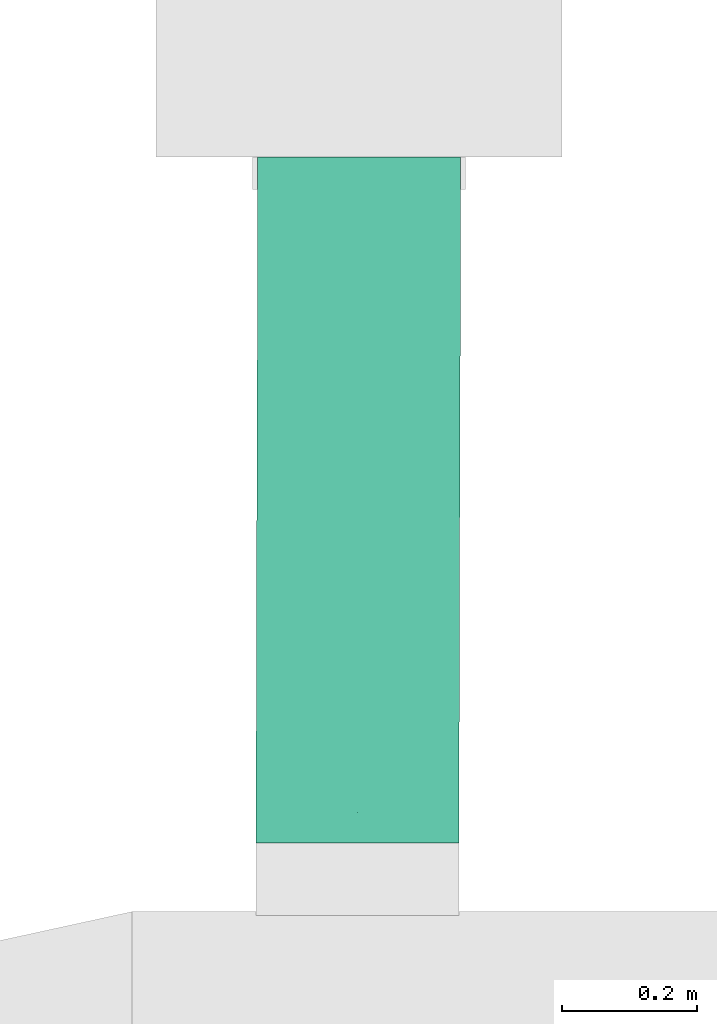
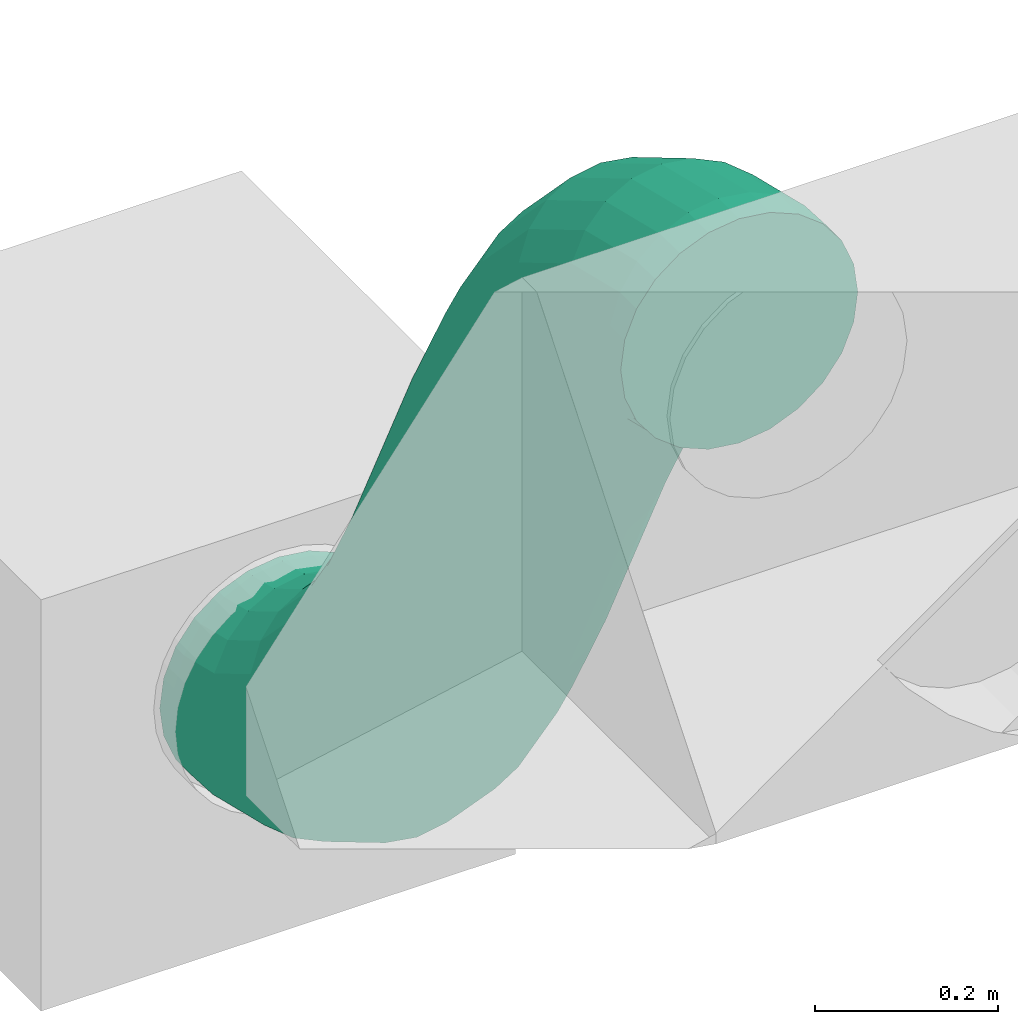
# One storey, part 43 of 60: 1 flow segment.
"""IFC2X3 building model written with IfcOpenShell, lengths in millimetres."""

from ifc_helpers import new_model, entity, si_unit, converted_unit, derived_unit, direction, frame, origin, place, context, subcontext, project, spatial, faceted_brep, type_object, element, save


model = new_model("IFC2X3")

# Units and contexts
model_context = context("Model", 3, precision=0.01, world=origin(), true_north=direction((6.123233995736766e-17, 1.0)))
body_context = subcontext(model_context, "Body", "Model", "MODEL_VIEW")
ifc_project = project(units=[si_unit("LENGTHUNIT", "METRE", prefix="MILLI"), converted_unit("PLANEANGLEUNIT", "DEGREE", entity("IfcPlaneAngleMeasure", 0.017453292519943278), si_unit("PLANEANGLEUNIT", "RADIAN"), dimensions=[0, 0, 0, 0, 0, 0, 0]), si_unit("AREAUNIT", "SQUARE_METRE"), derived_unit("THERMALTRANSMITTANCEUNIT", [(si_unit("MASSUNIT", "GRAM", prefix="KILO"), 1), (si_unit("THERMODYNAMICTEMPERATUREUNIT", "KELVIN"), -1), (si_unit("TIMEUNIT", "SECOND"), -3)])], contexts=[model_context])

# Site, building, storey
site_placement = place(None, origin())
site = spatial("IfcSite", under=ifc_project, at=site_placement, Name="Default", CompositionType="ELEMENT")
building_placement = place(site_placement, origin())
building = spatial("IfcBuilding", under=site, at=building_placement, Name="Praça Pedro II, 1301 - Centro (Sul), Teresina - PI, 64001-100", CompositionType="ELEMENT")
storey_placement = place(building_placement, frame((0.0, 0.0, 6040.0)))
storey = spatial("IfcBuildingStorey", under=building, at=storey_placement, Name="2PAV", CompositionType="ELEMENT", Elevation=6040.0)

# Flow segment
duct_segment_type = type_object("IfcDuctSegmentType", Name="Duto flexível redondo:Flexível - Redondo", PredefinedType="FLEXIBLESEGMENT")
flow_segment_placement = place(storey_placement, frame((18787.855338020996, -57934.32127782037, 2260.904727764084)))
element("IfcFlowSegment", 1, at=flow_segment_placement, inside=storey, type_object=duct_segment_type, Name="Duto flexível redondo:Flexível - Redondo", ObjectType="Duto flexível redondo:Flexível - Redondo", context=body_context, shape_type="Brep", body=[
    faceted_brep([(78.4657476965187, 1013.4202829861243, 281.49908280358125), (114.64289093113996, 1013.4202829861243, 296.48414617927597), (153.46574769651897, 1013.4202829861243, 301.5952722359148), (192.28860446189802, 1013.4202829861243, 296.48414617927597), (228.46574769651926, 1013.4202829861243, 281.49908280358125), (259.5317648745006, 1013.4202829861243, 257.66128941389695), (283.36955826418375, 1013.4202829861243, 226.59527223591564), (298.3546216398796, 1013.4202829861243, 190.41812900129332), (303.46574769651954, 1013.4202829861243, 151.59527223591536), (298.3546216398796, 1013.4202829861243, 112.77241547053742), (283.36955826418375, 1013.4202829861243, 76.59527223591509), (259.5317648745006, 1013.4202829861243, 45.529255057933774), (228.46574769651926, 1013.4202829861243, 21.691461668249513), (192.28860446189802, 1013.4202829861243, 6.706398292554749), (153.46574769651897, 1013.4202829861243, 1.5952722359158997), (114.64289093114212, 1013.4202829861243, 6.706398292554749), (78.4657476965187, 1013.4202829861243, 21.691461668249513), (47.39973051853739, 1013.4202829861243, 45.529255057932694), (23.561937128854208, 1013.4202829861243, 76.59527223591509), (8.576873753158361, 1013.4202829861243, 112.77241547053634), (3.4657476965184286, 1013.4202829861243, 151.59527223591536), (8.576873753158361, 1013.4202829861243, 190.41812900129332), (23.561937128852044, 1013.4202829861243, 226.59527223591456), (47.39973051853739, 1013.4202829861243, 257.66128941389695), (298.35462163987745, 981.4745333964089, 112.77241547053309), (283.3695582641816, 977.142272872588, 76.59527223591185), (259.5317648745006, 973.4243798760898, 45.529255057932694), (303.46574769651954, 986.1259250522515, 151.59527223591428), (228.46574769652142, 970.5742226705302, 21.691461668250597), (192.28860446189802, 968.7860347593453, 6.706398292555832), (153.46574769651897, 968.1816781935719, 1.5952722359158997), (114.64289093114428, 968.8023388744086, 6.706398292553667), (78.46574769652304, 970.6057198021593, 21.69146166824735), (47.39973051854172, 973.4689235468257, 45.52925505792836), (23.561937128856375, 977.1968275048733, 76.59527223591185), (8.576873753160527, 981.5353811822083, 112.77241547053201), (3.4657476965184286, 986.1889193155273, 151.59527223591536), (8.576873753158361, 990.8403109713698, 190.41812900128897), (23.561937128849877, 995.1725714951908, 226.59527223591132), (47.39973051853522, 998.890464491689, 257.6612894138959), (114.64289093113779, 1003.5288096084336, 296.4841461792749), (153.46574769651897, 1004.1331661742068, 301.5952722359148), (78.46574769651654, 1001.7406216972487, 281.49908280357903), (228.46574769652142, 1001.7091245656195, 281.49908280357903), (259.5317648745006, 998.8459208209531, 257.66128941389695), (192.28860446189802, 1003.5125054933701, 296.4841461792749), (298.3546216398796, 990.7794631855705, 190.41812900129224), (283.3695582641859, 995.1180168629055, 226.59527223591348), (151.59527223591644, 0.0, 1369.0952722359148), (112.77241547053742, 0.0, 1363.984146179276), (76.59527223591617, 0.0, 1348.9990828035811), (45.52925505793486, 0.0, 1325.1612894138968), (21.691461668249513, 0.0, 1294.0952722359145), (6.706398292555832, 0.0, 1257.9181290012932), (1.5952722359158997, 0.0, 1219.0952722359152), (6.706398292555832, 0.0, 1180.2724154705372), (21.69146166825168, 0.0, 1144.095272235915), (45.52925505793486, 0.0, 1113.0292550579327), (76.59527223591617, 0.0, 1089.1914616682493), (112.77241547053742, 0.0, 1074.2063982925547), (151.59527223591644, 0.0, 1069.0952722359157), (190.41812900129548, 0.0, 1074.2063982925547), (226.59527223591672, 0.0, 1089.1914616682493), (257.66128941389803, 0.0, 1113.0292550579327), (281.49908280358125, 0.0, 1144.095272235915), (296.48414617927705, 0.0, 1180.2724154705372), (301.595272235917, 0.0, 1219.0952722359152), (296.48414617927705, 0.0, 1257.9181290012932), (281.4990828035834, 0.0, 1294.0952722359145), (257.66128941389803, 0.0, 1325.1612894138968), (226.59527223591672, 0.0, 1348.9990828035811), (190.41812900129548, 0.0, 1363.984146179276), (303.42891500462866, 899.6806057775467, 172.61607653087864), (298.3134538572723, 884.8548749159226, 136.26730159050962), (283.32435282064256, 871.0463347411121, 102.39449387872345), (259.48309435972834, 859.1960144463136, 73.30602926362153), (228.41442083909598, 850.1114937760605, 50.984238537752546), (192.23561101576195, 844.4118678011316, 36.95031485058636), (153.41219099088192, 842.4855566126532, 32.16064690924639), (114.58991268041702, 844.4638351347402, 36.94164266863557), (78.41445019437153, 850.2118869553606, 50.96748516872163), (47.351101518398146, 859.337991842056, 73.28233642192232), (23.516782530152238, 871.2202208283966, 102.36547619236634), (8.535762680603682, 885.0488196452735, 136.23493656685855), (3.428973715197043, 899.8813921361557, 172.58256979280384), (8.544434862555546, 914.7071229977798, 208.93134473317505), (23.533535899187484, 928.5156631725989, 242.80415244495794), (47.374794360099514, 940.3659834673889, 271.89261706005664), (78.44346788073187, 949.4505041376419, 294.21440778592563), (114.62227770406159, 955.1501301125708, 308.24833147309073), (153.44569772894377, 957.0764413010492, 313.0379994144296), (192.26797603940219, 955.0981627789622, 308.2570036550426), (228.44343852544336, 949.3501109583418, 294.23116115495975), (259.5067872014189, 940.2240060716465, 271.9163099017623), (298.32212603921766, 914.5131782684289, 208.96370975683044), (283.34110618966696, 928.3417770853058, 242.83317013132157), (303.3270979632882, 801.8978277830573, 230.7241318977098), (298.20179562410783, 777.620839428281, 199.9918285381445), (283.2035285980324, 755.0094908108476, 171.35014731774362), (259.35440399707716, 735.6047079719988, 146.75097147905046), (228.2797002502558, 720.7288947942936, 127.87069420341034), (192.09710706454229, 711.395813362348, 115.99597518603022), (153.2724083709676, 708.2414977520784, 111.9360569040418), (114.45144322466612, 711.4809093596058, 115.96761607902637), (78.2797962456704, 720.8932876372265, 127.81590861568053), (47.2225053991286, 735.8371945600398, 146.67349295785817), (23.396073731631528, 755.2942275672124, 171.25525589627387), (8.424233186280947, 777.9384220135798, 199.88599090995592), (3.3272899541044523, 802.2266134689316, 230.61456072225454), (8.452592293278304, 826.5036018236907, 261.34686408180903), (23.450859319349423, 849.114950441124, 289.9885453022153), (47.29998392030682, 868.5197332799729, 314.58772114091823), (78.37468766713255, 883.3955464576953, 333.46799841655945), (114.55728085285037, 892.7286278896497, 345.3427174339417), (153.38197954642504, 895.8829434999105, 349.4026357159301), (192.20294469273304, 892.6435318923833, 345.37107654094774), (228.3745916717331, 883.2311536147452, 333.52278400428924), (259.43188251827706, 868.2872466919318, 314.6651996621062), (298.2301547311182, 826.1860192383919, 261.452701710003), (283.2583141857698, 848.8302136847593, 290.0834367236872), (303.17331791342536, 716.8756482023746, 318.4880222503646), (298.03738330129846, 686.7202704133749, 293.8236687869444), (283.02921348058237, 658.6338475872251, 270.833616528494), (259.1715904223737, 634.5304230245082, 251.08459954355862), (228.09037171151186, 616.0526052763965, 235.9224807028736), (191.90369103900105, 604.4596270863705, 226.38053334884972), (153.07761089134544, 600.5415307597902, 223.10902542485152), (114.25806446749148, 604.5653280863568, 226.3309047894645), (78.09053970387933, 616.2568039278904, 235.82660568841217), (47.039793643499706, 634.8192035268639, 250.94901179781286), (23.22188331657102, 658.9875300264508, 270.66755613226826), (8.259959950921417, 687.1147519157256, 293.63845248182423), (3.1736538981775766, 717.2840455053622, 318.2962722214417), (8.309588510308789, 747.4394232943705, 342.96062568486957), (23.317758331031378, 775.5258461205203, 365.95067794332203), (47.1753813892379, 799.6292706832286, 385.69969492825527), (78.2566001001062, 818.1070884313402, 400.8618137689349), (114.44328077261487, 829.7000666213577, 410.40376112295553), (153.2693609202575, 833.6181629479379, 413.67526904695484), (192.0889073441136, 829.5943656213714, 410.4533896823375), (228.25643210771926, 817.9028897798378, 400.95768878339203), (259.307178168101, 799.3404901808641, 385.83528267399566), (298.087011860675, 747.0449417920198, 343.14584198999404), (283.12508849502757, 775.172163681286, 366.11673833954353), (302.98059139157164, 641.4259134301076, 428.4790734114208), (297.8372389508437, 608.3665596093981, 408.04815267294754), (282.8221602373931, 577.5754020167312, 389.00107809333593), (258.9586080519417, 551.1508071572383, 372.6358763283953), (227.87284403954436, 530.8935675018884, 360.0678088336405), (191.68331164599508, 518.184180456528, 352.15336863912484), (152.85626769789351, 513.8887697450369, 349.4319117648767), (114.03771107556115, 518.3000605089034, 352.0889009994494), (77.87306226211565, 531.1174305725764, 359.9432669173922), (46.82688230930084, 551.4673973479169, 372.45974746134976), (23.01491707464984, 577.9631442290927, 388.7853651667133), (8.059912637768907, 608.799029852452, 407.8075561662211), (2.98102783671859, 641.8736395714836, 428.2299895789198), (8.124380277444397, 674.9329933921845, 448.6609103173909), (23.13945899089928, 705.72415098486, 467.70798489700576), (47.00301117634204, 732.1487458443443, 484.0731866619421), (78.08877518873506, 752.4059854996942, 496.6412541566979), (114.27830758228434, 765.1153725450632, 504.5556943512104), (153.10535153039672, 769.4107832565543, 507.27715122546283), (191.9239081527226, 764.9994924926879, 504.6201619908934), (228.08855696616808, 752.1821224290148, 496.7657960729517), (259.1347369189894, 731.8321556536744, 484.249315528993), (297.90170659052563, 674.5005231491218, 448.90150682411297), (282.94670215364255, 705.3364087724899, 467.9236978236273), (302.76190826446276, 572.3551985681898, 553.2838319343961), (297.6144194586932, 537.9893804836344, 535.2135781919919), (282.5954881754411, 505.98139490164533, 518.3652056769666), (258.7286297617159, 478.51253314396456, 503.886903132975), (227.6403311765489, 457.45475274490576, 492.7653429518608), (191.44920859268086, 444.24310663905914, 485.75844108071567), (152.6216272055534, 439.7779466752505, 483.3437063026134), (113.80362252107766, 444.3635661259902, 485.6856988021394), (77.64057740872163, 457.68746260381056, 492.6248156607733), (46.596943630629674, 478.84163458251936, 503.68816753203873), (22.788293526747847, 506.38446020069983, 518.1218052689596), (7.837147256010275, 538.4389414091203, 534.9421003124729), (2.7624007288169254, 572.8206182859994, 553.0027773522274), (7.909889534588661, 607.1864363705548, 571.0730310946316), (22.92882081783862, 639.1944219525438, 587.9214036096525), (46.79567923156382, 666.6632837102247, 602.3997061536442), (77.88397781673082, 687.7210641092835, 613.5212663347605), (114.07510040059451, 700.9327102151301, 620.5281682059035), (152.9026817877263, 705.3978701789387, 622.9429029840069), (191.7206864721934, 700.812250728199, 620.6009104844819), (227.88373158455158, 687.4883542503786, 613.6617936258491), (258.9273653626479, 666.3341822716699, 602.5984417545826), (297.6871617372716, 606.7368754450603, 571.3445089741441), (282.7360154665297, 638.7913566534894, 588.164804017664), (297.3814517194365, 471.73530402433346, 668.1707149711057), (297.15113039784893, 406.23384661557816, 799.6175133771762), (282.1321991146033, 374.22586103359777, 782.7691408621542), (282.36129630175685, 439.3791848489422, 652.0209688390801), (302.53025483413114, 506.47490057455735, 685.4908787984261), (302.29861920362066, 440.5996647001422, 817.6877671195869), (258.49338735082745, 411.6115590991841, 638.1422189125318), (258.2653407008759, 346.7569992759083, 768.2908383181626), (227.40428341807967, 390.3247445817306, 627.4802790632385), (227.17704211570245, 325.6992188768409, 757.1692781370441), (190.98591953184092, 312.4875727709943, 750.1623762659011), (191.21265555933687, 376.9694025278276, 620.7617428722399), (152.15833814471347, 308.0224128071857, 747.7476414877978), (152.38490340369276, 372.45567742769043, 618.4444674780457), (113.34033346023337, 312.608032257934, 750.0896339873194), (113.56707409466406, 377.09117218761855, 620.686371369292), (77.17728834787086, 325.93192873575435, 757.0287508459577), (77.4045385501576, 390.5599855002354, 627.3346725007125), (46.13365456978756, 347.08610071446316, 768.092102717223), (46.36171380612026, 411.9442399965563, 637.9363001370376), (22.554117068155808, 439.7866340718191, 651.768770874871), (22.325004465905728, 374.62892633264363, 782.5257404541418), (7.373858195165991, 406.6834075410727, 799.3460354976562), (7.60419671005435, 472.18975458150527, 667.8894246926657), (2.2991116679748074, 441.0650844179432, 817.4067125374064), (2.5307650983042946, 506.9453824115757, 685.1996656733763), (7.446600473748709, 475.4309025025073, 835.4769662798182), (7.679568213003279, 541.6849789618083, 702.5198295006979), (22.46553175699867, 507.4388880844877, 852.3253387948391), (22.699723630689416, 574.0410981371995, 718.6695756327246), (46.33239017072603, 534.9077498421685, 866.8036413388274), (46.5676325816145, 601.8087238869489, 732.5483255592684), (77.65673651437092, 623.0955384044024, 743.2102654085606), (77.42068875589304, 555.9655302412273, 877.9252015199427), (113.61181133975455, 569.1771763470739, 884.9321033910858), (113.84836437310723, 636.4508804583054, 749.9288015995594), (152.4393927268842, 573.6423363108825, 887.3468381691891), (152.6761165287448, 640.964605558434, 752.2460769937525), (191.2573974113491, 569.0567168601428, 885.0048456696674), (191.49394583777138, 636.3291107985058, 750.004173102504), (227.42044252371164, 555.7328203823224, 878.0657288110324), (227.65648138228, 622.8602974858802, 743.3558719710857), (258.6993061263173, 601.4760429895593, 732.7542443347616), (258.4640763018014, 534.5786484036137, 867.0023769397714), (282.50690286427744, 573.6336489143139, 718.9217735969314), (282.2727264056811, 507.03582278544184, 852.5687392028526), (297.22387267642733, 474.9813415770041, 835.748444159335), (297.4568232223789, 541.2305284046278, 702.801119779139), (296.93663965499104, 338.48728959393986, 922.0296341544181), (281.92156094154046, 307.69613200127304, 902.9825595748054), (302.0799920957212, 371.54664341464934, 942.4605548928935), (258.05800875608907, 281.2715371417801, 886.6173578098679), (226.97224474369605, 261.0142974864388, 874.0492903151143), (190.78271235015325, 248.3049104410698, 866.1348501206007), (151.9556684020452, 244.00949972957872, 863.4133932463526), (113.13711177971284, 248.42079049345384, 866.0703824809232), (76.97246296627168, 261.2381605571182, 873.9247483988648), (45.9262830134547, 281.58812733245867, 886.4412289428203), (7.159313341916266, 338.91975983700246, 921.789037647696), (2.0804285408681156, 371.99436955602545, 942.2114710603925), (22.114317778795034, 308.0838742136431, 902.7668466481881), (7.223780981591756, 405.0537233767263, 962.6423917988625), (22.238859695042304, 435.8448809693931, 981.6894663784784), (46.1024118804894, 462.2694758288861, 998.0546681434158), (77.18817589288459, 482.5267154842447, 1010.6227356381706), (113.37770828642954, 495.236102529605, 1018.5371758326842), (152.20475223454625, 499.5315132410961, 1021.2586327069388), (191.0233088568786, 495.1202224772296, 1018.601643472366), (227.18795767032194, 482.3028524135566, 1010.7472775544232), (258.2341376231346, 461.95288563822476, 998.2307970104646), (282.0461028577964, 435.4571387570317, 981.9051793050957), (297.00110729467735, 404.62125313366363, 962.8829883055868), (296.75143142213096, 265.9808596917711, 1027.729918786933), (281.74326160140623, 237.89443686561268, 1004.7398665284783), (301.88736603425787, 296.1362374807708, 1052.3942722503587), (257.8856385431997, 213.79101230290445, 984.9908495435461), (226.80441983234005, 195.31319455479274, 969.8287307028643), (190.61773915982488, 183.7202163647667, 960.2867833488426), (151.79165901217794, 179.8021200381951, 957.0152754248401), (112.97211258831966, 183.82591736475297, 960.2371547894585), (76.80458782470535, 195.51739320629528, 969.7328556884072), (45.75384176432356, 214.07979280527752, 984.85526179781), (6.974008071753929, 266.3753411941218, 1027.5447024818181), (1.8877020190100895, 296.54463478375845, 1052.2025222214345), (21.935931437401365, 238.24811930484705, 1004.5738061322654), (7.023636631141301, 326.70001257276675, 1076.8668756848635), (22.03180645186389, 354.7864353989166, 1099.856927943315), (45.889429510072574, 378.8898599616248, 1119.605944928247), (76.97064822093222, 397.3676777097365, 1134.7680637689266), (113.15732889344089, 408.9606558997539, 1144.3100111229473), (151.98340904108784, 412.87875222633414, 1147.5815190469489), (190.8029554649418, 408.85495489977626, 1144.3596396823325), (226.97048022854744, 397.1634790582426, 1134.863938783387), (258.0212262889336, 378.60107945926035, 1119.7415326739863), (281.83913661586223, 354.4327529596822, 1100.022988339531), (296.80105998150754, 326.30553107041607, 1077.0520919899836), (296.6084276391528, 186.91668116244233, 1109.3436803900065), (281.6101606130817, 164.3053325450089, 1080.7019991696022), (301.73372997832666, 211.19366951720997, 1140.0759837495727), (257.7610360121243, 144.90054970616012, 1056.1028233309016), (226.68633226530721, 130.02473652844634, 1037.2225460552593), (190.5037390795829, 120.691655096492, 1025.3478270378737), (151.6790403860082, 117.5373394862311, 1021.2879087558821), (112.85807523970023, 120.77675109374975, 1025.319467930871), (76.68642826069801, 130.18912937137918, 1037.1677604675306), (45.62913741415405, 145.1330362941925, 1056.0253448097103), (6.830865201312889, 187.23426374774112, 1109.2378427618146), (1.7339219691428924, 211.52245520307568, 1139.9664125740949), (21.80270574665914, 164.5900693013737, 1080.6071077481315), (6.859224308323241, 235.799443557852, 1170.6987159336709), (21.85749133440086, 258.4107921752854, 1199.340397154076), (45.70661593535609, 277.81557501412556, 1223.9395729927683), (76.78131968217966, 292.69138819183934, 1242.819850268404), (112.96391286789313, 302.02446962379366, 1254.6945692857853), (151.78861156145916, 305.17878523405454, 1258.7544875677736), (190.60957670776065, 301.9393736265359, 1254.722928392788), (226.78122368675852, 292.5269953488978, 1242.874635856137), (257.838514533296, 277.5830884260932, 1224.0170515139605), (281.6649462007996, 258.12605541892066, 1199.4352885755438), (296.63678674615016, 235.4818609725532, 1170.804553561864), (296.5165850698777, 98.71315998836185, 1161.7591997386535), (281.5274840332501, 84.90461981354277, 1127.8863920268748), (301.6320462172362, 113.53889084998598, 1198.1079746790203), (257.68622557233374, 73.05429951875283, 1098.7979274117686), (226.61755205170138, 63.969778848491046, 1076.476136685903), (190.43874222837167, 58.27015287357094, 1062.4422129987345), (151.6153222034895, 56.34384168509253, 1057.6525450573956), (112.79304389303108, 58.3221202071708, 1062.433540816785), (76.61758140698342, 64.07017202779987, 1076.4593833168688), (45.554232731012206, 73.19627691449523, 1098.7742345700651), (6.738893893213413, 98.90710471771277, 1161.7268347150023), (1.6321049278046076, 113.73967720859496, 1198.0744679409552), (21.71991374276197, 85.0785059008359, 1127.857374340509), (6.747566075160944, 128.5654080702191, 1234.42324288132), (21.73666711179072, 142.37394824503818, 1268.2960505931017), (45.57792557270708, 154.2242685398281, 1297.384515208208), (76.64659909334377, 163.30878921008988, 1319.7063059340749), (112.82540891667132, 169.00841518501, 1333.740229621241), (151.64882894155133, 170.93472637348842, 1338.529897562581), (190.4711072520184, 168.95644785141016, 1333.7489018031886), (226.6465697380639, 163.20839603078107, 1319.7230593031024), (257.7099184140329, 154.0822911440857, 1297.408208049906), (281.544237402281, 142.20006215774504, 1268.325068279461), (296.52525725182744, 128.3714633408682, 1234.455607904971), (296.48414617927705, 22.579972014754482, 1180.2724154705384), (281.4990828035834, 18.24771149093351, 1144.0952722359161), (301.595272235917, 27.2313636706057, 1219.0952722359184), (257.6612894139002, 14.529818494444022, 1113.0292550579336), (226.59527223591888, 11.67966128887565, 1089.1914616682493), (190.41812900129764, 9.891473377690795, 1074.2063982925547), (151.59527223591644, 9.287116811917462, 1069.0952722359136), (112.77241547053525, 9.907777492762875, 1074.2063982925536), (76.59527223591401, 11.711158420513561, 1089.1914616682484), (45.52925505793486, 14.57436216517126, 1113.0292550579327), (6.706398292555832, 22.6408198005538, 1180.2724154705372), (1.5952722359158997, 27.294357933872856, 1219.095272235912), (21.691461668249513, 18.302266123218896, 1144.0952722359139), (6.706398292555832, 31.945749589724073, 1257.918129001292), (21.691461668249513, 36.27801011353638, 1294.0952722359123), (45.52925505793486, 39.99590311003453, 1325.1612894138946), (76.59527223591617, 42.846060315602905, 1348.999082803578), (112.77241547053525, 44.6342482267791, 1363.9841461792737), (151.59527223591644, 45.23860479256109, 1369.0952722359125), (190.41812900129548, 44.61794411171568, 1363.9841461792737), (226.59527223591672, 42.81456318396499, 1348.9990828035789), (257.66128941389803, 39.951359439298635, 1325.1612894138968), (281.49908280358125, 36.223455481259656, 1294.0952722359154), (296.4841461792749, 31.884901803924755, 1257.9181290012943)], [[[0, 1, 2, 3, 4, 5, 6, 7, 8, 9, 10, 11, 12, 13, 14, 15, 16, 17, 18, 19, 20, 21, 22, 23]], [[10, 9, 24, 25]], [[11, 10, 25, 26]], [[8, 27, 24, 9]], [[13, 12, 28, 29]], [[14, 13, 29, 30]], [[11, 26, 28, 12]], [[14, 30, 31, 15]], [[15, 31, 32, 16]], [[16, 32, 33, 17]], [[18, 34, 35, 19]], [[19, 35, 36, 20]], [[17, 33, 34, 18]], [[37, 38, 22, 21]], [[36, 37, 21, 20]], [[22, 38, 39, 23]], [[40, 41, 2, 1]], [[42, 40, 1, 0]], [[23, 39, 42, 0]], [[4, 43, 44, 5]], [[45, 43, 4, 3]], [[2, 41, 45, 3]], [[46, 27, 8, 7]], [[47, 46, 7, 6]], [[44, 47, 6, 5]], [[48, 49, 50, 51, 52, 53, 54, 55, 56, 57, 58, 59, 60, 61, 62, 63, 64, 65, 66, 67, 68, 69, 70, 71]], [[24, 27, 72, 73]], [[25, 24, 73, 74]], [[26, 25, 74, 75]], [[29, 28, 76, 77]], [[30, 29, 77, 78]], [[75, 76, 28, 26]], [[30, 78, 79, 31]], [[31, 79, 80, 32]], [[32, 80, 81, 33]], [[33, 81, 82, 34]], [[34, 82, 83, 35]], [[84, 36, 35, 83]], [[85, 86, 38, 37]], [[84, 85, 37, 36]], [[87, 39, 38, 86]], [[88, 89, 40, 42]], [[88, 42, 39, 87]], [[90, 41, 40, 89]], [[91, 92, 43, 45]], [[90, 91, 45, 41]], [[44, 43, 92, 93]], [[94, 72, 27, 46]], [[95, 94, 46, 47]], [[93, 95, 47, 44]], [[72, 96, 97, 73]], [[73, 97, 98, 74]], [[99, 75, 74, 98]], [[76, 100, 101, 77]], [[77, 101, 102, 78]], [[100, 76, 75, 99]], [[79, 78, 102, 103]], [[80, 79, 103, 104]], [[104, 105, 81, 80]], [[82, 81, 105, 106]], [[83, 82, 106, 107]], [[84, 83, 107, 108]], [[109, 110, 86, 85]], [[108, 109, 85, 84]], [[87, 86, 110, 111]], [[112, 113, 89, 88]], [[111, 112, 88, 87]], [[90, 89, 113, 114]], [[115, 116, 92, 91]], [[114, 115, 91, 90]], [[117, 93, 92, 116]], [[118, 96, 72, 94]], [[119, 118, 94, 95]], [[119, 95, 93, 117]], [[96, 120, 121, 97]], [[97, 121, 122, 98]], [[123, 99, 98, 122]], [[100, 124, 125, 101]], [[101, 125, 126, 102]], [[124, 100, 99, 123]], [[103, 102, 126, 127]], [[104, 103, 127, 128]], [[128, 129, 105, 104]], [[106, 105, 129, 130]], [[107, 106, 130, 131]], [[108, 107, 131, 132]], [[133, 134, 110, 109]], [[132, 133, 109, 108]], [[111, 110, 134, 135]], [[136, 137, 113, 112]], [[135, 136, 112, 111]], [[114, 113, 137, 138]], [[139, 140, 116, 115]], [[138, 139, 115, 114]], [[141, 117, 116, 140]], [[142, 120, 96, 118]], [[143, 142, 118, 119]], [[143, 119, 117, 141]], [[120, 144, 145, 121]], [[121, 145, 146, 122]], [[147, 123, 122, 146]], [[124, 148, 149, 125]], [[125, 149, 150, 126]], [[148, 124, 123, 147]], [[127, 126, 150, 151]], [[128, 127, 151, 152]], [[152, 153, 129, 128]], [[130, 129, 153, 154]], [[131, 130, 154, 155]], [[132, 131, 155, 156]], [[157, 158, 134, 133]], [[156, 157, 133, 132]], [[135, 134, 158, 159]], [[160, 161, 137, 136]], [[159, 160, 136, 135]], [[138, 137, 161, 162]], [[163, 164, 140, 139]], [[162, 163, 139, 138]], [[165, 141, 140, 164]], [[166, 144, 120, 142]], [[167, 166, 142, 143]], [[167, 143, 141, 165]], [[144, 168, 169, 145]], [[145, 169, 170, 146]], [[171, 147, 146, 170]], [[148, 172, 173, 149]], [[149, 173, 174, 150]], [[172, 148, 147, 171]], [[151, 150, 174, 175]], [[152, 151, 175, 176]], [[176, 177, 153, 152]], [[154, 153, 177, 178]], [[155, 154, 178, 179]], [[156, 155, 179, 180]], [[181, 182, 158, 157]], [[180, 181, 157, 156]], [[159, 158, 182, 183]], [[184, 185, 161, 160]], [[183, 184, 160, 159]], [[162, 161, 185, 186]], [[187, 188, 164, 163]], [[186, 187, 163, 162]], [[189, 165, 164, 188]], [[190, 168, 144, 166]], [[191, 190, 166, 167]], [[191, 167, 165, 189]], [[192, 193, 194, 195, 170, 169]], [[196, 197, 193, 192, 169, 168]], [[198, 171, 170, 195, 194, 199]], [[172, 200, 201, 202, 203, 173]], [[173, 203, 202, 204, 205, 174]], [[200, 172, 171, 198, 199, 201]], [[175, 174, 205, 204, 206, 207]], [[176, 175, 207, 206, 208, 209]], [[209, 208, 210, 211, 177, 176]], [[179, 178, 212, 213, 214, 215]], [[180, 179, 215, 214, 216, 217]], [[211, 210, 213, 212, 178, 177]], [[181, 180, 217, 216, 218, 219]], [[182, 181, 219, 218, 220, 221]], [[183, 182, 221, 220, 222, 223]], [[185, 184, 224, 225, 226, 227]], [[186, 185, 227, 226, 228, 229]], [[223, 222, 225, 224, 184, 183]], [[186, 229, 228, 230, 231, 187]], [[187, 231, 230, 232, 233, 188]], [[234, 189, 188, 233, 232, 235]], [[191, 236, 237, 238, 239, 190]], [[190, 239, 238, 197, 196, 168]], [[236, 191, 189, 234, 235, 237]], [[240, 241, 194, 193]], [[242, 240, 193, 197]], [[243, 199, 194, 241]], [[244, 245, 202, 201]], [[244, 201, 199, 243]], [[246, 204, 202, 245]], [[247, 248, 208, 206]], [[246, 247, 206, 204]], [[210, 208, 248, 249]], [[250, 251, 216, 214]], [[252, 250, 214, 213]], [[249, 252, 213, 210]], [[218, 216, 251, 253]], [[220, 218, 253, 254]], [[222, 220, 254, 255]], [[226, 225, 256, 257]], [[228, 226, 257, 258]], [[255, 256, 225, 222]], [[228, 258, 259, 230]], [[230, 259, 260, 232]], [[232, 260, 261, 235]], [[235, 261, 262, 237]], [[237, 262, 263, 238]], [[242, 197, 238, 263]], [[264, 265, 241, 240]], [[266, 264, 240, 242]], [[267, 243, 241, 265]], [[268, 269, 245, 244]], [[268, 244, 243, 267]], [[270, 246, 245, 269]], [[271, 272, 248, 247]], [[270, 271, 247, 246]], [[249, 248, 272, 273]], [[274, 275, 251, 250]], [[276, 274, 250, 252]], [[273, 276, 252, 249]], [[253, 251, 275, 277]], [[254, 253, 277, 278]], [[255, 254, 278, 279]], [[257, 256, 280, 281]], [[258, 257, 281, 282]], [[279, 280, 256, 255]], [[258, 282, 283, 259]], [[259, 283, 284, 260]], [[260, 284, 285, 261]], [[261, 285, 286, 262]], [[262, 286, 287, 263]], [[266, 242, 263, 287]], [[288, 289, 265, 264]], [[290, 288, 264, 266]], [[291, 267, 265, 289]], [[292, 293, 269, 268]], [[292, 268, 267, 291]], [[294, 270, 269, 293]], [[295, 296, 272, 271]], [[294, 295, 271, 270]], [[273, 272, 296, 297]], [[298, 299, 275, 274]], [[300, 298, 274, 276]], [[297, 300, 276, 273]], [[277, 275, 299, 301]], [[278, 277, 301, 302]], [[279, 278, 302, 303]], [[281, 280, 304, 305]], [[282, 281, 305, 306]], [[303, 304, 280, 279]], [[282, 306, 307, 283]], [[283, 307, 308, 284]], [[284, 308, 309, 285]], [[285, 309, 310, 286]], [[286, 310, 311, 287]], [[290, 266, 287, 311]], [[312, 313, 289, 288]], [[314, 312, 288, 290]], [[315, 291, 289, 313]], [[316, 317, 293, 292]], [[316, 292, 291, 315]], [[318, 294, 293, 317]], [[319, 320, 296, 295]], [[318, 319, 295, 294]], [[297, 296, 320, 321]], [[322, 323, 299, 298]], [[324, 322, 298, 300]], [[321, 324, 300, 297]], [[301, 299, 323, 325]], [[302, 301, 325, 326]], [[303, 302, 326, 327]], [[305, 304, 328, 329]], [[306, 305, 329, 330]], [[327, 328, 304, 303]], [[306, 330, 331, 307]], [[307, 331, 332, 308]], [[308, 332, 333, 309]], [[309, 333, 334, 310]], [[310, 334, 335, 311]], [[314, 290, 311, 335]], [[336, 337, 313, 312]], [[338, 336, 312, 314]], [[315, 313, 337, 339]], [[340, 341, 317, 316]], [[339, 340, 316, 315]], [[318, 317, 341, 342]], [[343, 344, 320, 319]], [[342, 343, 319, 318]], [[345, 321, 320, 344]], [[346, 347, 323, 322]], [[348, 346, 322, 324]], [[348, 324, 321, 345]], [[323, 347, 349, 325]], [[325, 349, 350, 326]], [[351, 327, 326, 350]], [[328, 352, 353, 329]], [[329, 353, 354, 330]], [[352, 328, 327, 351]], [[331, 330, 354, 355]], [[332, 331, 355, 356]], [[356, 357, 333, 332]], [[334, 333, 357, 358]], [[335, 334, 358, 359]], [[314, 335, 359, 338]], [[336, 338, 66, 65]], [[337, 336, 65, 64]], [[339, 337, 64, 63]], [[341, 340, 62, 61]], [[342, 341, 61, 60]], [[339, 63, 62, 340]], [[342, 60, 59, 343]], [[343, 59, 58, 344]], [[344, 58, 57, 345]], [[348, 56, 55, 346]], [[346, 55, 54, 347]], [[348, 345, 57, 56]], [[347, 54, 53, 349]], [[349, 53, 52, 350]], [[350, 52, 51, 351]], [[352, 50, 49, 353]], [[353, 49, 48, 354]], [[351, 51, 50, 352]], [[355, 354, 48, 71]], [[356, 355, 71, 70]], [[357, 356, 70, 69]], [[359, 358, 68, 67]], [[338, 359, 67, 66]], [[69, 68, 358, 357]]]),
])

save(model, "model.ifc")
